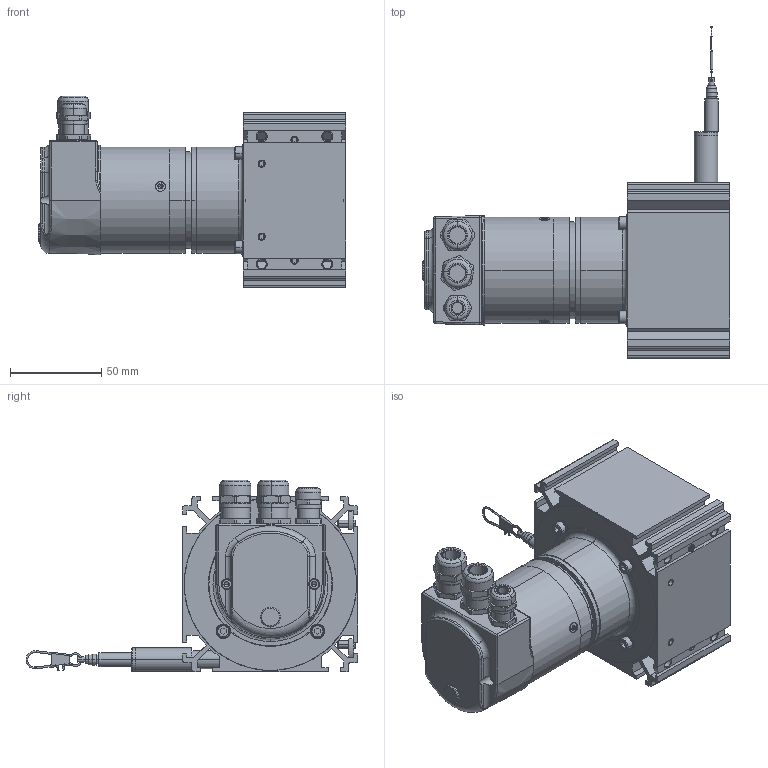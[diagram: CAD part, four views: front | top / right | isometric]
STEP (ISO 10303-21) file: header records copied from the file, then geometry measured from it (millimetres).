
FILE_DESCRIPTION((''),'2;1');
FILE_NAME('WDS-3000-P96-BH-CO_02_ASM','2024-05-21T14:18:09',('15000597'),(''),'CREO PARAMETRIC BY PTC INC, 2022164','CREO PARAMETRIC BY PTC INC, 2022164','');
FILE_SCHEMA(('AUTOMOTIVE_DESIGN { 1 0 10303 214 1 1 1 1 }'));
Length unit declared in the file: millimetre
Products named in the file (21): TELESO_SENZORU_3M_P96_CER_ELOX_AF0; ADAPTER_3M_P96_AF0; SROUB_ISO4026_STAV_HEX_M4X5_AF0; SROUB_ISO4026_STAV_HEX_M4X5_AF1; SROUB_ISO4026_STAV_HEX_M4X5_AF2; SROUB_ISO4026_STAV_HEX_M4X5_AF3; VIKO_SENZORU_P96_CERNY_ELOX; TRUBKA_PRUCHODKY_2I5M_P96_AF0; PL_VYOSENA_P96_P115; PRIRUBA_SYNCHRO_P96_P200; PODLOZKA_M4_VEJIROVA; SROUB_ISO4762_VALC_HEX_M4X6; LANKO_7X7_0I63_0I8_AF0; GP_7I5X2I0X18_EXT_EPDM60; KARABINKA_SPECIALNI; UPEVNOVACI_MATICE_P96_M_IVO_AF0; UPEVNOVACI_MATICE_P96_M_IVO_AF1; SROUB_ISO4029_STAV_HEX_M4X10_AF0; SROUB_ISO4029_STAV_HEX_M4X10_AF1; BAU_SYNCHRO_CO_EN580CIMLSU06HH2; WDS-3000-P96-BH-CO_02_ASM
Assembly tree (26 placements, depth 2):
  WDS-3000-P96-BH-CO_02_ASM
    TELESO_SENZORU_3M_P96_CER_ELOX_AF0
    ADAPTER_3M_P96_AF0
    SROUB_ISO4026_STAV_HEX_M4X5_AF0
    SROUB_ISO4026_STAV_HEX_M4X5_AF1
    SROUB_ISO4026_STAV_HEX_M4X5_AF2
    SROUB_ISO4026_STAV_HEX_M4X5_AF3
    VIKO_SENZORU_P96_CERNY_ELOX
    TRUBKA_PRUCHODKY_2I5M_P96_AF0
    PL_VYOSENA_P96_P115
    PRIRUBA_SYNCHRO_P96_P200
    PODLOZKA_M4_VEJIROVA  x4
    SROUB_ISO4762_VALC_HEX_M4X6  x4
    LANKO_7X7_0I63_0I8_AF0
    GP_7I5X2I0X18_EXT_EPDM60
    KARABINKA_SPECIALNI
    UPEVNOVACI_MATICE_P96_M_IVO_AF0
    UPEVNOVACI_MATICE_P96_M_IVO_AF1
    SROUB_ISO4029_STAV_HEX_M4X10_AF0
    SROUB_ISO4029_STAV_HEX_M4X10_AF1
    BAU_SYNCHRO_CO_EN580CIMLSU06HH2
Bounding box: 168.4 x 181.99 x 105 mm (x, y, z)
Volume: 162101.8 mm3; surface area: 150286.6 mm2
Topology: 25 solids, 50 shells, 1362 faces, 3478 edges, 2200 vertices
Faces by surface type: plane 575, cylinder 396, cone 210, torus 146, revolution 16, bspline 13, sphere 6
Entity records: 47042 total; most frequent: CARTESIAN_POINT 10679, DIRECTION 5849, ORIENTED_EDGE 5336, EDGE_CURVE 2714, AXIS2_PLACEMENT_3D 2383, PRESENTATION_STYLE_ASSIGNMENT 2015, STYLED_ITEM 2011, VERTEX_POINT 1714
